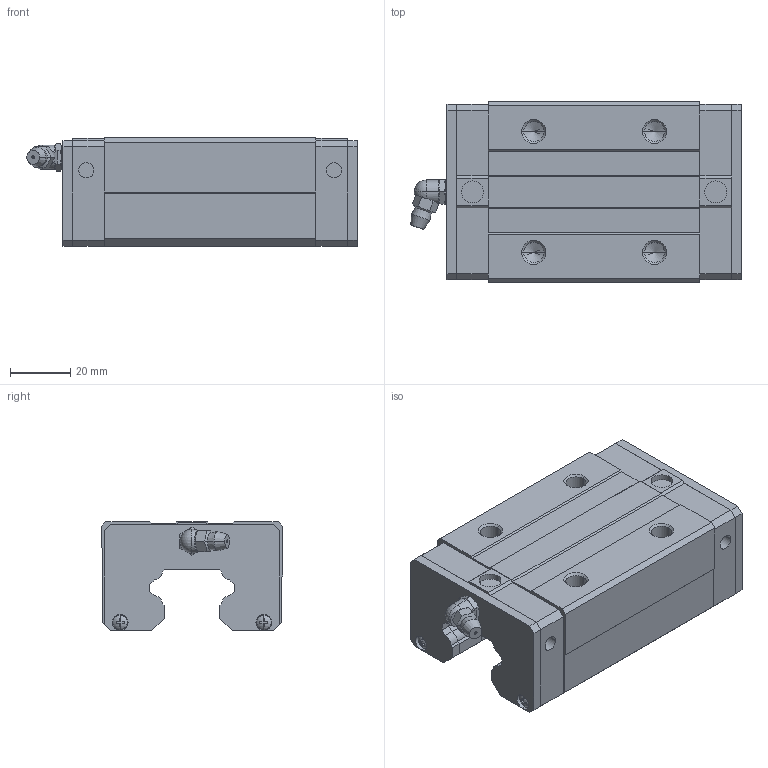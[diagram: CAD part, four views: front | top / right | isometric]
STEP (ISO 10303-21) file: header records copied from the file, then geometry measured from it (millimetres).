
FILE_DESCRIPTION(('starvars output'),'2;1');
FILE_NAME('cv20190625225417000064638.stp','22:54:17 2019/06/25',( 'Thomas Industrial Network Germany GmbH'),( 'Thomas Industrial Network Germany GmbH'),'unknown preprocess','ACIS' ,'unknown authorization');
FILE_SCHEMA(('CONFIG_CONTROL_DESIGN {UNKNOWN IMPLEMENTATION LEVEL}'));
Length unit declared in the file: millimetre
Products named in the file (10): PRODUCT_ID_1; PRODUCT_ID_2; PRODUCT_ID_3; PRODUCT_ID_4; PRODUCT_ID_5; PRODUCT_ID_6; PRODUCT_ID_7; PRODUCT_ID_8; PRODUCT_ID_9; PRODUCT_ID_10
Bounding box: 109.4 x 60 x 36 mm (x, y, z)
Volume: 158867.2 mm3; surface area: 41130 mm2
Topology: 10 solids, 10 shells, 379 faces, 962 edges, 612 vertices
Faces by surface type: plane 240, cone 64, cylinder 63, sphere 12
Entity records: 10951 total; most frequent: ORIENTED_EDGE 1900, CARTESIAN_POINT 1789, DIRECTION 1489, EDGE_CURVE 950, VECTOR 613, LINE 613, VERTEX_POINT 612, AXIS2_PLACEMENT_3D 438
